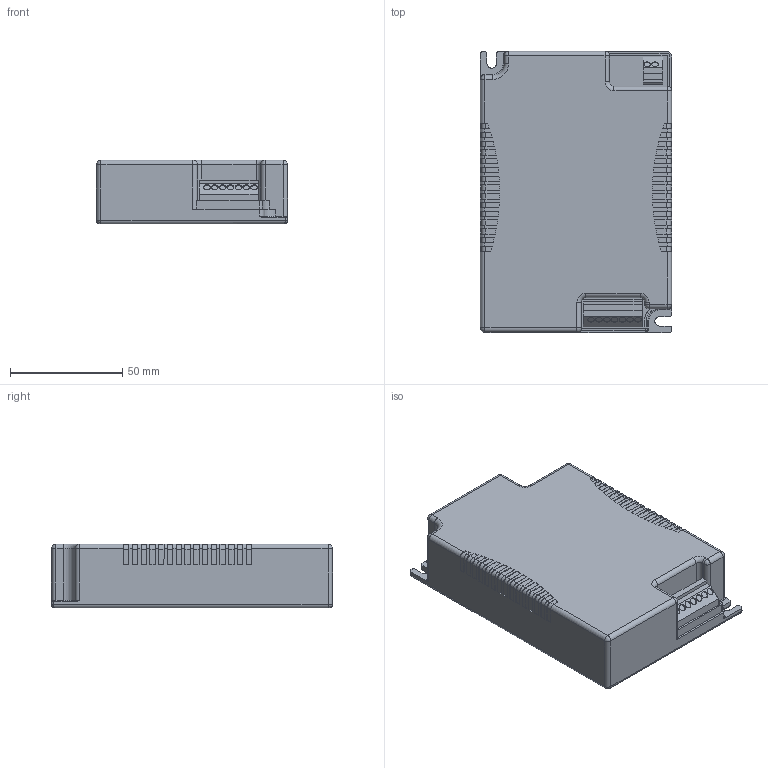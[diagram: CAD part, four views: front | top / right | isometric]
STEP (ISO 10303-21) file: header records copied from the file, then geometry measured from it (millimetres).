
FILE_DESCRIPTION((''),'2;1');
FILE_NAME('15010223Z_DATEMEC_PRE_ZC5_7POL','2016-06-08T',('juergen.hrach'),(''),'PRO/ENGINEER BY PARAMETRIC TECHNOLOGY CORPORATION, 2015200','PRO/ENGINEER BY PARAMETRIC TECHNOLOGY CORPORATION, 2015200','');
FILE_SCHEMA(('AUTOMOTIVE_DESIGN { 1 0 10303 214 1 1 1 1 }'));
Length unit declared in the file: millimetre
Products named in the file (1): 15010223Z_DATEMEC_PRE_ZC5_7POL
Bounding box: 85 x 125 x 28.3 mm (x, y, z)
Volume: 279500.3 mm3; surface area: 34684.1 mm2
Topology: 1 solids, 1 shells, 413 faces, 1136 edges, 736 vertices
Faces by surface type: plane 220, cylinder 163, torus 14, bspline 8, sphere 8
Entity records: 17978 total; most frequent: CARTESIAN_POINT 2616, DIRECTION 2277, ORIENTED_EDGE 2272, PRESENTATION_STYLE_ASSIGNMENT 1233, STYLED_ITEM 1137, CURVE_STYLE 1136, EDGE_CURVE 1136, VECTOR 777
